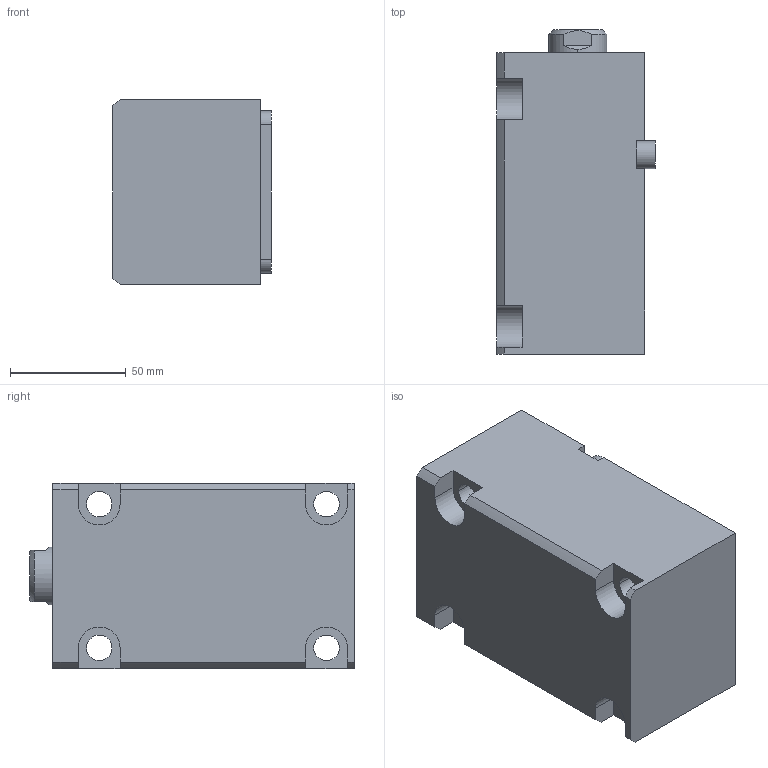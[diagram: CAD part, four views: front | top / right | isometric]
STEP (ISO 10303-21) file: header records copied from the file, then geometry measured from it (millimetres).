
FILE_DESCRIPTION (( 'STEP AP214' ), '1' );
FILE_NAME ('chtb-lam40x75n_asm.STEP', '2018-05-29T08:06:35', ( 'Windows' ), ( 'Microsoft' ), 'SwSTEP 2.0', 'SolidWorks 2015', '' );
FILE_SCHEMA (( 'AUTOMOTIVE_DESIGN' ));
Length unit declared in the file: millimetre
Products named in the file (5): CHTB-SD40X75NHSG; CHTB-SD40QG; CHTB-LAM40X75NBT; CHTB-LA40PJ; chtb-lam40x75n_asm
Assembly tree (4 placements, depth 2):
  chtb-lam40x75n_asm
    CHTB-LA40PJ
    CHTB-LAM40X75NBT
    CHTB-SD40QG
    CHTB-SD40X75NHSG
Bounding box: 68.5 x 140 x 80 mm (x, y, z)
Volume: 571423.3 mm3; surface area: 101491.8 mm2
Topology: 4 solids, 4 shells, 154 faces, 418 edges, 278 vertices
Faces by surface type: cylinder 73, plane 46, bspline 14, torus 12, cone 9
Entity records: 10092 total; most frequent: CARTESIAN_POINT 6074, ORIENTED_EDGE 824, DIRECTION 755, EDGE_CURVE 412, AXIS2_PLACEMENT_3D 300, VERTEX_POINT 278, EDGE_LOOP 180, VECTOR 155
